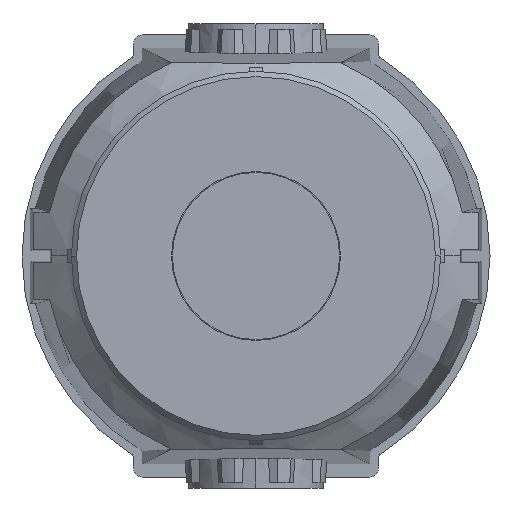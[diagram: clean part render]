
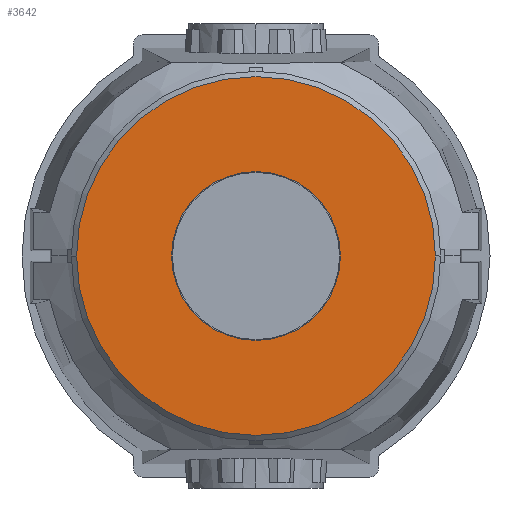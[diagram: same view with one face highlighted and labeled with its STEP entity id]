
A CAD part, front view. The second image highlights one B-rep face of the part: STEP entity #3642.
In plain terms, the highlighted planar face has unit normal (0, -1, 0) as drawn and (0, 0, 1) by its records, which use the part's own axes.
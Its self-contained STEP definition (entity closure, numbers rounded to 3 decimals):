
#3414=CARTESIAN_POINT('',(0.,0.,2.5));
#3415=DIRECTION('',(0.,0.,-1.));
#3416=DIRECTION('',(-1.,0.,0.));
#3417=AXIS2_PLACEMENT_3D('',#3414,#3415,#3416);
#3419=CARTESIAN_POINT('',(0.,0.,2.5));
#3420=DIRECTION('',(0.,0.,-1.));
#3421=DIRECTION('',(0.,1.,0.));
#3422=AXIS2_PLACEMENT_3D('',#3419,#3420,#3421);
#3424=CARTESIAN_POINT('',(0.,0.,2.5));
#3425=DIRECTION('',(0.,0.,-1.));
#3426=DIRECTION('',(1.,0.,0.));
#3427=AXIS2_PLACEMENT_3D('',#3424,#3425,#3426);
#3429=CARTESIAN_POINT('',(0.,0.,2.5));
#3430=DIRECTION('',(0.,0.,-1.));
#3431=DIRECTION('',(0.,-1.,0.));
#3432=AXIS2_PLACEMENT_3D('',#3429,#3430,#3431);
#3434=CARTESIAN_POINT('',(0.,0.,2.5));
#3435=DIRECTION('',(0.,0.,1.));
#3436=DIRECTION('',(0.,-1.,0.));
#3437=AXIS2_PLACEMENT_3D('',#3434,#3435,#3436);
#3439=CARTESIAN_POINT('',(0.,0.,2.5));
#3440=DIRECTION('',(0.,0.,1.));
#3441=DIRECTION('',(0.,1.,0.));
#3442=AXIS2_PLACEMENT_3D('',#3439,#3440,#3441);
#3548=CARTESIAN_POINT('',(0.,34.,2.5));
#3549=CARTESIAN_POINT('',(34.,0.,2.5));
#3550=VERTEX_POINT('',#3548);
#3551=VERTEX_POINT('',#3549);
#3552=CARTESIAN_POINT('',(-34.,0.,2.5));
#3553=VERTEX_POINT('',#3552);
#3554=CARTESIAN_POINT('',(0.,-34.,2.5));
#3555=VERTEX_POINT('',#3554);
#3556=CARTESIAN_POINT('',(0.,-16.,2.5));
#3557=CARTESIAN_POINT('',(0.,16.,2.5));
#3558=VERTEX_POINT('',#3556);
#3559=VERTEX_POINT('',#3557);
#3623=CARTESIAN_POINT('',(0.,0.,2.5));
#3624=DIRECTION('',(0.,0.,1.));
#3625=DIRECTION('',(1.,0.,0.));
#3626=AXIS2_PLACEMENT_3D('',#3623,#3624,#3625);
#3627=PLANE('',#3626);
#3628=ORIENTED_EDGE('',*,*,#3612,.T.);
#3629=ORIENTED_EDGE('',*,*,#3610,.T.);
#3631=ORIENTED_EDGE('',*,*,#3630,.T.);
#3633=ORIENTED_EDGE('',*,*,#3632,.T.);
#3634=EDGE_LOOP('',(#3628,#3629,#3631,#3633));
#3635=FACE_OUTER_BOUND('',#3634,.F.);
#3637=ORIENTED_EDGE('',*,*,#3636,.T.);
#3639=ORIENTED_EDGE('',*,*,#3638,.T.);
#3640=EDGE_LOOP('',(#3637,#3639));
#3641=FACE_BOUND('',#3640,.F.);
#3642=ADVANCED_FACE('',(#3635,#3641),#3627,.T.);
#3418=CIRCLE('',#3417,34.);
#3423=CIRCLE('',#3422,34.);
#3428=CIRCLE('',#3427,34.);
#3433=CIRCLE('',#3432,34.);
#3438=CIRCLE('',#3437,16.);
#3443=CIRCLE('',#3442,16.);
#3610=EDGE_CURVE('',#3550,#3551,#3423,.T.);
#3612=EDGE_CURVE('',#3553,#3550,#3418,.T.);
#3630=EDGE_CURVE('',#3551,#3555,#3428,.T.);
#3632=EDGE_CURVE('',#3555,#3553,#3433,.T.);
#3636=EDGE_CURVE('',#3558,#3559,#3438,.T.);
#3638=EDGE_CURVE('',#3559,#3558,#3443,.T.);
